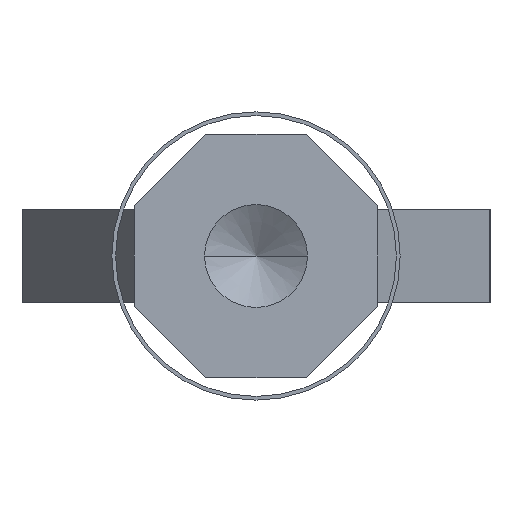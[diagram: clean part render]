
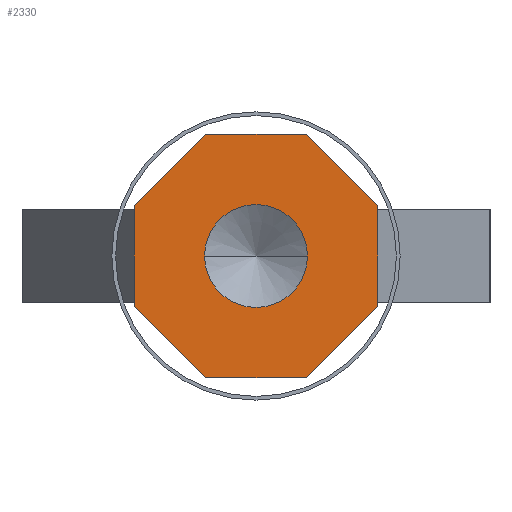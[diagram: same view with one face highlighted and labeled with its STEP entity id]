
A CAD part, left-side view. The second image highlights one B-rep face of the part: STEP entity #2330.
In plain terms, the highlighted planar face has unit normal (-1, 0, 0).
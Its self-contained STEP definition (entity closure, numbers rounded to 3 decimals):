
#266=DIRECTION('',(0.,0.707,0.707));
#267=VECTOR('',#266,10.77);
#268=CARTESIAN_POINT('',(-137.,5.385,-13.));
#269=LINE('',#268,#267);
#270=DIRECTION('',(0.,0.,1.));
#271=VECTOR('',#270,10.77);
#272=CARTESIAN_POINT('',(-137.,13.,-5.385));
#273=LINE('',#272,#271);
#274=DIRECTION('',(0.,-0.707,0.707));
#275=VECTOR('',#274,10.77);
#276=CARTESIAN_POINT('',(-137.,13.,5.385));
#277=LINE('',#276,#275);
#278=DIRECTION('',(0.,-1.,0.));
#279=VECTOR('',#278,10.77);
#280=CARTESIAN_POINT('',(-137.,5.385,13.));
#281=LINE('',#280,#279);
#282=DIRECTION('',(0.,-0.707,-0.707));
#283=VECTOR('',#282,10.77);
#284=CARTESIAN_POINT('',(-137.,-5.385,13.));
#285=LINE('',#284,#283);
#286=DIRECTION('',(0.,0.,-1.));
#287=VECTOR('',#286,10.77);
#288=CARTESIAN_POINT('',(-137.,-13.,5.385));
#289=LINE('',#288,#287);
#290=DIRECTION('',(0.,0.707,-0.707));
#291=VECTOR('',#290,10.77);
#292=CARTESIAN_POINT('',(-137.,-13.,-5.385));
#293=LINE('',#292,#291);
#294=DIRECTION('',(0.,1.,0.));
#295=VECTOR('',#294,10.77);
#296=CARTESIAN_POINT('',(-137.,-5.385,-13.));
#297=LINE('',#296,#295);
#298=CARTESIAN_POINT('',(-137.,0.,0.));
#299=DIRECTION('',(-1.,0.,0.));
#300=DIRECTION('',(0.,1.,0.));
#301=AXIS2_PLACEMENT_3D('',#298,#299,#300);
#303=CARTESIAN_POINT('',(-137.,0.,0.));
#304=DIRECTION('',(-1.,0.,0.));
#305=DIRECTION('',(0.,-1.,0.));
#306=AXIS2_PLACEMENT_3D('',#303,#304,#305);
#1434=CARTESIAN_POINT('',(-137.,5.385,-13.));
#1435=CARTESIAN_POINT('',(-137.,13.,-5.385));
#1436=VERTEX_POINT('',#1434);
#1437=VERTEX_POINT('',#1435);
#1438=CARTESIAN_POINT('',(-137.,13.,5.385));
#1439=VERTEX_POINT('',#1438);
#1440=CARTESIAN_POINT('',(-137.,5.385,13.));
#1441=VERTEX_POINT('',#1440);
#1442=CARTESIAN_POINT('',(-137.,-5.385,13.));
#1443=VERTEX_POINT('',#1442);
#1444=CARTESIAN_POINT('',(-137.,-13.,5.385));
#1445=VERTEX_POINT('',#1444);
#1446=CARTESIAN_POINT('',(-137.,-13.,-5.385));
#1447=VERTEX_POINT('',#1446);
#1448=CARTESIAN_POINT('',(-137.,-5.385,-13.));
#1449=VERTEX_POINT('',#1448);
#1536=CARTESIAN_POINT('',(-137.,5.5,0.));
#1537=CARTESIAN_POINT('',(-137.,-5.5,0.));
#1538=VERTEX_POINT('',#1536);
#1539=VERTEX_POINT('',#1537);
#2307=CARTESIAN_POINT('',(-137.,0.,0.));
#2308=DIRECTION('',(1.,0.,0.));
#2309=DIRECTION('',(0.,-1.,0.));
#2310=AXIS2_PLACEMENT_3D('',#2307,#2308,#2309);
#2311=PLANE('',#2310);
#2312=ORIENTED_EDGE('',*,*,#2174,.T.);
#2313=ORIENTED_EDGE('',*,*,#2203,.T.);
#2314=ORIENTED_EDGE('',*,*,#2236,.T.);
#2315=ORIENTED_EDGE('',*,*,#2263,.T.);
#2316=ORIENTED_EDGE('',*,*,#2289,.T.);
#2317=ORIENTED_EDGE('',*,*,#1952,.T.);
#2319=ORIENTED_EDGE('',*,*,#2318,.T.);
#2321=ORIENTED_EDGE('',*,*,#2320,.T.);
#2322=EDGE_LOOP('',(#2312,#2313,#2314,#2315,#2316,#2317,#2319,#2321));
#2323=FACE_OUTER_BOUND('',#2322,.F.);
#2325=ORIENTED_EDGE('',*,*,#2324,.T.);
#2327=ORIENTED_EDGE('',*,*,#2326,.T.);
#2328=EDGE_LOOP('',(#2325,#2327));
#2329=FACE_BOUND('',#2328,.F.);
#2330=ADVANCED_FACE('',(#2323,#2329),#2311,.F.);
#302=CIRCLE('',#301,5.5);
#307=CIRCLE('',#306,5.5);
#1952=EDGE_CURVE('',#1445,#1447,#289,.T.);
#2174=EDGE_CURVE('',#1436,#1437,#269,.T.);
#2203=EDGE_CURVE('',#1437,#1439,#273,.T.);
#2236=EDGE_CURVE('',#1439,#1441,#277,.T.);
#2263=EDGE_CURVE('',#1441,#1443,#281,.T.);
#2289=EDGE_CURVE('',#1443,#1445,#285,.T.);
#2318=EDGE_CURVE('',#1447,#1449,#293,.T.);
#2320=EDGE_CURVE('',#1449,#1436,#297,.T.);
#2324=EDGE_CURVE('',#1538,#1539,#302,.T.);
#2326=EDGE_CURVE('',#1539,#1538,#307,.T.);
